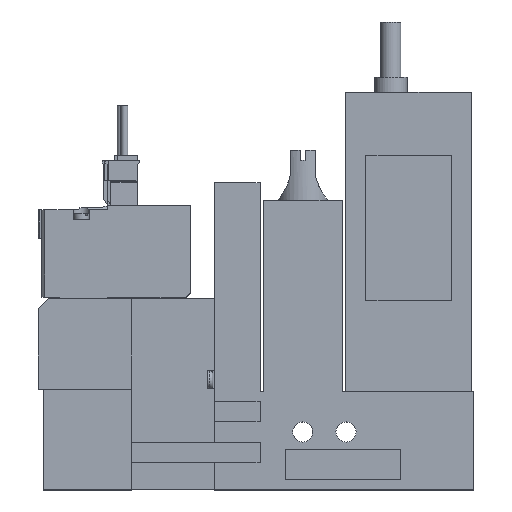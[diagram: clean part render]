
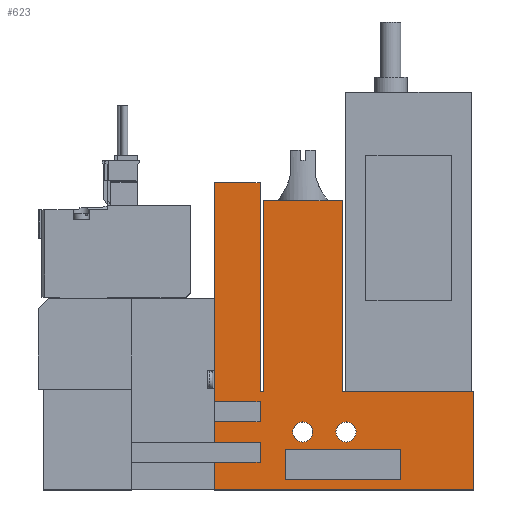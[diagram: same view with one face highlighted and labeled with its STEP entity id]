
A CAD part, top view. The second image highlights one B-rep face of the part: STEP entity #623.
In plain terms, the highlighted planar face has unit normal (0, 0, 1).
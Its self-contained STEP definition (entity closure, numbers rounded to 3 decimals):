
#623=ADVANCED_FACE('',(#1347,#1348,#1349,#1350),#1351,.T.);
#1347=FACE_OUTER_BOUND('',#2182,.T.);
#1348=FACE_BOUND('',#2183,.T.);
#1349=FACE_BOUND('',#2184,.T.);
#1350=FACE_BOUND('',#2185,.T.);
#1351=PLANE('',#2186);
#2182=EDGE_LOOP('',(#4805,#4806,#4807,#4808,#4809,#4810,#4811,#4812,#4813,#4814,#4815,#4816,#4817,#4818,#4819,#4820,#4821,#4822));
#2183=EDGE_LOOP('',(#4823,#4824,#4825,#4826));
#2184=EDGE_LOOP('',(#4827));
#2185=EDGE_LOOP('',(#4828));
#2186=AXIS2_PLACEMENT_3D('',#4829,#4830,#4831);
#4805=ORIENTED_EDGE('',*,*,#6263,.T.);
#4806=ORIENTED_EDGE('',*,*,#6260,.T.);
#4807=ORIENTED_EDGE('',*,*,#6252,.T.);
#4808=ORIENTED_EDGE('',*,*,#6264,.T.);
#4809=ORIENTED_EDGE('',*,*,#6265,.T.);
#4810=ORIENTED_EDGE('',*,*,#6266,.T.);
#4811=ORIENTED_EDGE('',*,*,#6255,.T.);
#4812=ORIENTED_EDGE('',*,*,#6231,.T.);
#4813=ORIENTED_EDGE('',*,*,#6267,.T.);
#4814=ORIENTED_EDGE('',*,*,#6268,.T.);
#4815=ORIENTED_EDGE('',*,*,#6269,.T.);
#4816=ORIENTED_EDGE('',*,*,#6270,.T.);
#4817=ORIENTED_EDGE('',*,*,#6217,.T.);
#4818=ORIENTED_EDGE('',*,*,#6214,.T.);
#4819=ORIENTED_EDGE('',*,*,#6221,.T.);
#4820=ORIENTED_EDGE('',*,*,#6271,.T.);
#4821=ORIENTED_EDGE('',*,*,#6272,.T.);
#4822=ORIENTED_EDGE('',*,*,#6244,.T.);
#4823=ORIENTED_EDGE('',*,*,#6273,.T.);
#4824=ORIENTED_EDGE('',*,*,#6274,.T.);
#4825=ORIENTED_EDGE('',*,*,#6275,.T.);
#4826=ORIENTED_EDGE('',*,*,#6276,.T.);
#4827=ORIENTED_EDGE('',*,*,#6277,.T.);
#4828=ORIENTED_EDGE('',*,*,#6278,.T.);
#4829=CARTESIAN_POINT('',(0.0,0.0,10.0));
#4830=DIRECTION('',(0.0,0.0,1.0));
#4831=DIRECTION('',(1.0,0.0,0.0));
#6214=EDGE_CURVE('',#7705,#7703,#7706,.T.);
#6217=EDGE_CURVE('',#7710,#7705,#7711,.T.);
#6221=EDGE_CURVE('',#7703,#7715,#7717,.T.);
#6231=EDGE_CURVE('',#7735,#7733,#7736,.T.);
#6244=EDGE_CURVE('',#7759,#7757,#7760,.T.);
#6252=EDGE_CURVE('',#7770,#7772,#7774,.T.);
#6255=EDGE_CURVE('',#7775,#7735,#7779,.T.);
#6260=EDGE_CURVE('',#7782,#7770,#7786,.T.);
#6263=EDGE_CURVE('',#7757,#7782,#7789,.T.);
#6264=EDGE_CURVE('',#7772,#7790,#7791,.T.);
#6265=EDGE_CURVE('',#7790,#7792,#7793,.T.);
#6266=EDGE_CURVE('',#7792,#7775,#7794,.T.);
#6267=EDGE_CURVE('',#7733,#7795,#7796,.T.);
#6268=EDGE_CURVE('',#7795,#7797,#7798,.T.);
#6269=EDGE_CURVE('',#7797,#7799,#7800,.T.);
#6270=EDGE_CURVE('',#7799,#7710,#7801,.T.);
#6271=EDGE_CURVE('',#7715,#7802,#7803,.T.);
#6272=EDGE_CURVE('',#7802,#7759,#7804,.T.);
#6273=EDGE_CURVE('',#7805,#7806,#7807,.T.);
#6274=EDGE_CURVE('',#7806,#7808,#7809,.T.);
#6275=EDGE_CURVE('',#7808,#7810,#7811,.T.);
#6276=EDGE_CURVE('',#7810,#7805,#7812,.T.);
#6277=EDGE_CURVE('',#7813,#7813,#7814,.T.);
#6278=EDGE_CURVE('',#7815,#7815,#7816,.T.);
#7703=VERTEX_POINT('',#10071);
#7705=VERTEX_POINT('',#10074);
#7706=LINE('',#10075,#10076);
#7710=VERTEX_POINT('',#10082);
#7711=LINE('',#10083,#10084);
#7715=VERTEX_POINT('',#10090);
#7717=LINE('',#10093,#10094);
#7733=VERTEX_POINT('',#10116);
#7735=VERTEX_POINT('',#10119);
#7736=LINE('',#10120,#10121);
#7757=VERTEX_POINT('',#10153);
#7759=VERTEX_POINT('',#10156);
#7760=LINE('',#10157,#10158);
#7770=VERTEX_POINT('',#10173);
#7772=VERTEX_POINT('',#10176);
#7774=LINE('',#10179,#10180);
#7775=VERTEX_POINT('',#10181);
#7779=LINE('',#10187,#10188);
#7782=VERTEX_POINT('',#10193);
#7786=LINE('',#10199,#10200);
#7789=LINE('',#10205,#10206);
#7790=VERTEX_POINT('',#10207);
#7791=LINE('',#10208,#10209);
#7792=VERTEX_POINT('',#10210);
#7793=LINE('',#10211,#10212);
#7794=LINE('',#10213,#10214);
#7795=VERTEX_POINT('',#10215);
#7796=LINE('',#10216,#10217);
#7797=VERTEX_POINT('',#10218);
#7798=LINE('',#10219,#10220);
#7799=VERTEX_POINT('',#10221);
#7800=LINE('',#10222,#10223);
#7801=LINE('',#10224,#10225);
#7802=VERTEX_POINT('',#10226);
#7803=LINE('',#10227,#10228);
#7804=LINE('',#10229,#10230);
#7805=VERTEX_POINT('',#10231);
#7806=VERTEX_POINT('',#10232);
#7807=LINE('',#10233,#10234);
#7808=VERTEX_POINT('',#10235);
#7809=LINE('',#10236,#10237);
#7810=VERTEX_POINT('',#10238);
#7811=LINE('',#10239,#10240);
#7812=LINE('',#10241,#10242);
#7813=VERTEX_POINT('',#10243);
#7814=CIRCLE('',#10244,2.0);
#7815=VERTEX_POINT('',#10245);
#7816=CIRCLE('',#10246,2.0);
#10071=CARTESIAN_POINT('',(44.75,57.5,10.0));
#10074=CARTESIAN_POINT('',(60.45,57.5,10.0));
#10075=CARTESIAN_POINT('',(60.45,57.5,10.0));
#10076=VECTOR('',#11547,1.0);
#10082=CARTESIAN_POINT('',(60.45,19.5,10.0));
#10083=CARTESIAN_POINT('',(60.45,19.5,10.0));
#10084=VECTOR('',#11550,1.0);
#10090=CARTESIAN_POINT('',(44.75,19.5,10.0));
#10093=CARTESIAN_POINT('',(44.75,57.5,10.0));
#10094=VECTOR('',#11554,1.0);
#10116=CARTESIAN_POINT('',(35.1,5.5,10.0));
#10119=CARTESIAN_POINT('',(44.1,5.5,10.0));
#10120=CARTESIAN_POINT('',(0.0,5.5,10.0));
#10121=VECTOR('',#11568,1.0);
#10153=CARTESIAN_POINT('',(35.1,61.0,10.0));
#10156=CARTESIAN_POINT('',(44.1,61.0,10.0));
#10157=CARTESIAN_POINT('',(44.1,61.0,10.0));
#10158=VECTOR('',#11581,1.0);
#10173=CARTESIAN_POINT('',(44.1,17.5,10.0));
#10176=CARTESIAN_POINT('',(44.1,13.5,10.0));
#10179=CARTESIAN_POINT('',(44.1,0.0,10.0));
#10180=VECTOR('',#11589,1.0);
#10181=CARTESIAN_POINT('',(44.1,9.5,10.0));
#10187=CARTESIAN_POINT('',(44.1,0.0,10.0));
#10188=VECTOR('',#11592,1.0);
#10193=CARTESIAN_POINT('',(35.1,17.5,10.0));
#10199=CARTESIAN_POINT('',(0.0,17.5,10.0));
#10200=VECTOR('',#11597,1.0);
#10205=CARTESIAN_POINT('',(35.1,61.0,10.0));
#10206=VECTOR('',#11600,1.0);
#10207=CARTESIAN_POINT('',(35.1,13.5,10.0));
#10208=CARTESIAN_POINT('',(0.0,13.5,10.0));
#10209=VECTOR('',#11601,1.0);
#10210=CARTESIAN_POINT('',(35.1,9.5,10.0));
#10211=CARTESIAN_POINT('',(35.1,0.0,10.0));
#10212=VECTOR('',#11602,1.0);
#10213=CARTESIAN_POINT('',(0.0,9.5,10.0));
#10214=VECTOR('',#11603,1.0);
#10215=CARTESIAN_POINT('',(35.1,0.0,10.0));
#10216=CARTESIAN_POINT('',(35.1,0.0,10.0));
#10217=VECTOR('',#11604,1.0);
#10218=CARTESIAN_POINT('',(86.6,0.0,10.0));
#10219=CARTESIAN_POINT('',(18.6,0.0,10.0));
#10220=VECTOR('',#11605,1.0);
#10221=CARTESIAN_POINT('',(86.6,19.5,10.0));
#10222=CARTESIAN_POINT('',(86.6,0.0,10.0));
#10223=VECTOR('',#11606,1.0);
#10224=CARTESIAN_POINT('',(86.6,19.5,10.0));
#10225=VECTOR('',#11607,1.0);
#10226=CARTESIAN_POINT('',(44.1,19.5,10.0));
#10227=CARTESIAN_POINT('',(44.75,19.5,10.0));
#10228=VECTOR('',#11608,1.0);
#10229=CARTESIAN_POINT('',(44.1,19.5,10.0));
#10230=VECTOR('',#11609,1.0);
#10231=CARTESIAN_POINT('',(49.1,2.0,10.0));
#10232=CARTESIAN_POINT('',(49.1,8.0,10.0));
#10233=CARTESIAN_POINT('',(49.1,0.0,10.0));
#10234=VECTOR('',#11610,1.0);
#10235=CARTESIAN_POINT('',(72.1,8.0,10.0));
#10236=CARTESIAN_POINT('',(0.0,8.0,10.0));
#10237=VECTOR('',#11611,1.0);
#10238=CARTESIAN_POINT('',(72.1,2.0,10.0));
#10239=CARTESIAN_POINT('',(72.1,0.0,10.0));
#10240=VECTOR('',#11612,1.0);
#10241=CARTESIAN_POINT('',(0.0,2.0,10.0));
#10242=VECTOR('',#11613,1.0);
#10243=CARTESIAN_POINT('',(54.6,11.5,10.0));
#10244=AXIS2_PLACEMENT_3D('',#11614,#11615,#11616);
#10245=CARTESIAN_POINT('',(63.2,11.5,10.0));
#10246=AXIS2_PLACEMENT_3D('',#11617,#11618,#11619);
#11547=DIRECTION('',(-1.0,0.0,0.0));
#11550=DIRECTION('',(0.0,1.0,0.0));
#11554=DIRECTION('',(0.0,-1.0,0.0));
#11568=DIRECTION('',(-1.0,0.0,0.0));
#11581=DIRECTION('',(-1.0,0.0,0.0));
#11589=DIRECTION('',(0.0,-1.0,0.0));
#11592=DIRECTION('',(0.0,-1.0,0.0));
#11597=DIRECTION('',(1.0,0.0,0.0));
#11600=DIRECTION('',(0.0,-1.0,0.0));
#11601=DIRECTION('',(-1.0,0.0,0.0));
#11602=DIRECTION('',(0.0,-1.0,0.0));
#11603=DIRECTION('',(1.0,0.0,0.0));
#11604=DIRECTION('',(0.0,-1.0,0.0));
#11605=DIRECTION('',(1.0,0.0,0.0));
#11606=DIRECTION('',(0.0,1.0,0.0));
#11607=DIRECTION('',(-1.0,0.0,0.0));
#11608=DIRECTION('',(-1.0,0.0,0.0));
#11609=DIRECTION('',(0.0,1.0,0.0));
#11610=DIRECTION('',(0.0,1.0,0.0));
#11611=DIRECTION('',(1.0,0.0,0.0));
#11612=DIRECTION('',(0.0,-1.0,0.0));
#11613=DIRECTION('',(-1.0,0.0,0.0));
#11614=CARTESIAN_POINT('',(52.6,11.5,10.0));
#11615=DIRECTION('',(0.0,0.0,-1.0));
#11616=DIRECTION('',(1.0,0.0,0.0));
#11617=CARTESIAN_POINT('',(61.2,11.5,10.0));
#11618=DIRECTION('',(0.0,0.0,-1.0));
#11619=DIRECTION('',(1.0,0.0,0.0));
